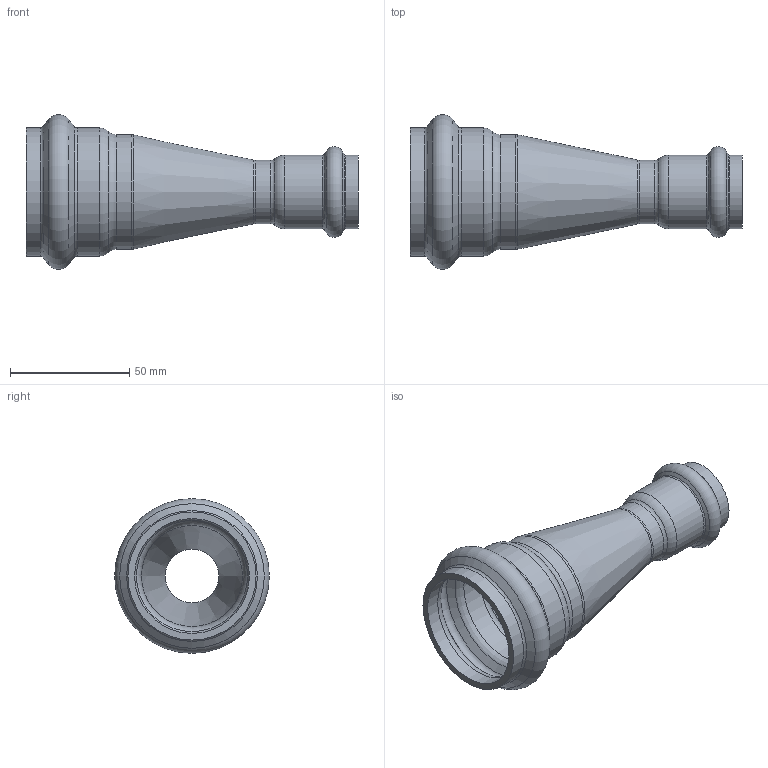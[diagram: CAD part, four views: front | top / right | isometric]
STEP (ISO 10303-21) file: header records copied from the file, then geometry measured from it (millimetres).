
FILE_DESCRIPTION(/* description */ ('VIC REDUCER CONC. STYLE P594 (P X P)','CAx-IF Rec.Pracs.---Representation and Presentation of Product Manufacturing Information (PMI)---4.0---2014-10-13'),/* implementation_level */ '2;1');
FILE_NAME(/* name */ 'C:\Users\Vjadhav\AppData\Roaming\Autodesk\ApplicationPlugins\Back Up\Victaulic_SS-Vic-Press-TP 304_Reducer Concentric_Style P594 (VP)\Victaulic_SS-Vic-Press-TP 304_Reducer Concentric_Style P594 (VP)_01.5x0.75 (40x20).stp',/* time_stamp */ '2020-08-12T18:14:54+06:00',/* author */ ('cgray'),/* organization */ ('Victaulic'),/* preprocessor_version */ 'ST-DEVELOPER v17.2',/* originating_system */ 'Autodesk Inventor 2019',/* authorisation */ '');
FILE_SCHEMA (('AP242_MANAGED_MODEL_BASED_3D_ENGINEERING_MIM_LF { 1 0 10303 442 1 1 4 }'));
Length unit declared in the file: inch
Products named in the file (1): P594-01.5x0.75
Bounding box: 139.45 x 64.94 x 64.94 mm (x, y, z)
Volume: 45650.5 mm3; surface area: 37091.2 mm2
Topology: 1 solids, 1 shells, 48 faces, 182 edges, 136 vertices
Faces by surface type: torus 24, cylinder 12, cone 10, plane 2
Full cylindrical faces by diameter (mm): 22.454 x1, 26.67 x3, 30.886 x2, 42.723 x1, 48.26 x3, 53.797 x2
Entity records: 2282 total; most frequent: DIRECTION 466, CARTESIAN_POINT 384, ORIENTED_EDGE 364, AXIS2_PLACEMENT_3D 222, EDGE_CURVE 182, CIRCLE 160, VERTEX_POINT 136, EDGE_LOOP 50
